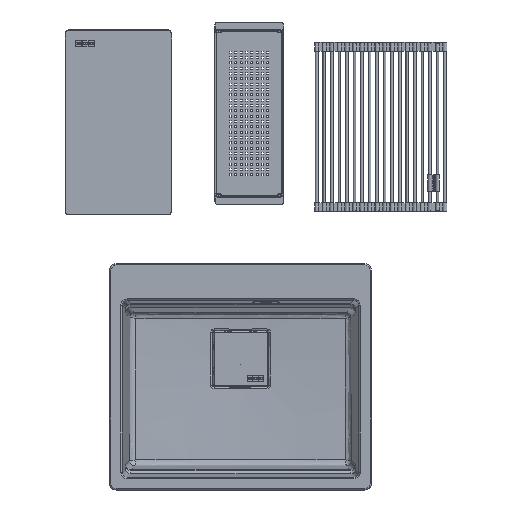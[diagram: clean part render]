
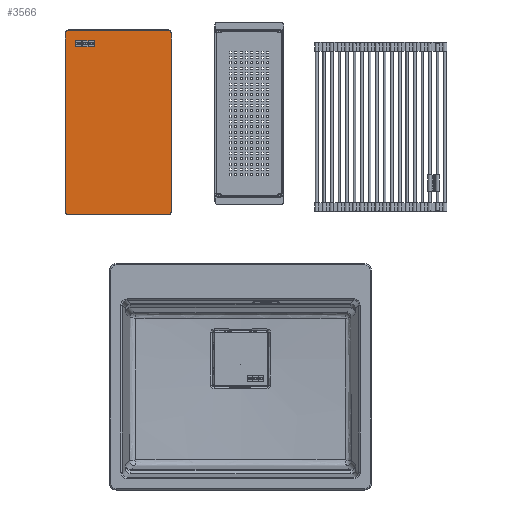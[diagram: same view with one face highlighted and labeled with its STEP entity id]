
A CAD part, top view. The second image highlights one B-rep face of the part: STEP entity #3566.
In plain terms, the highlighted planar face has unit normal (0, 0, 1).
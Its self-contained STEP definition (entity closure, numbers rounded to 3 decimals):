
#593=FACE_BOUND('',#15357,.T.);
#594=FACE_BOUND('',#15358,.T.);
#595=FACE_BOUND('',#15359,.T.);
#3566=ADVANCED_FACE('',(#9407,#593,#594,#595),#99971,.T.);
#9407=FACE_OUTER_BOUND('',#15356,.T.);
#15356=EDGE_LOOP('',(#32192,#32193,#32194,#32195,#32196,#32197,#32198,#32199));
#15357=EDGE_LOOP('',(#32200,#32201,#32202,#32203));
#15358=EDGE_LOOP('',(#32204,#32205,#32206,#32207));
#15359=EDGE_LOOP('',(#32208,#32209,#32210,#32211));
#32192=ORIENTED_EDGE('',*,*,#57907,.T.);
#32193=ORIENTED_EDGE('',*,*,#57863,.T.);
#32194=ORIENTED_EDGE('',*,*,#57922,.T.);
#32195=ORIENTED_EDGE('',*,*,#57864,.T.);
#32196=ORIENTED_EDGE('',*,*,#57918,.T.);
#32197=ORIENTED_EDGE('',*,*,#57865,.T.);
#32198=ORIENTED_EDGE('',*,*,#57912,.T.);
#32199=ORIENTED_EDGE('',*,*,#57866,.T.);
#32200=ORIENTED_EDGE('',*,*,#57552,.T.);
#32201=ORIENTED_EDGE('',*,*,#57548,.T.);
#32202=ORIENTED_EDGE('',*,*,#57558,.T.);
#32203=ORIENTED_EDGE('',*,*,#57555,.T.);
#32204=ORIENTED_EDGE('',*,*,#57684,.T.);
#32205=ORIENTED_EDGE('',*,*,#57680,.T.);
#32206=ORIENTED_EDGE('',*,*,#57690,.T.);
#32207=ORIENTED_EDGE('',*,*,#57687,.T.);
#32208=ORIENTED_EDGE('',*,*,#57837,.T.);
#32209=ORIENTED_EDGE('',*,*,#57833,.T.);
#32210=ORIENTED_EDGE('',*,*,#57843,.T.);
#32211=ORIENTED_EDGE('',*,*,#57840,.T.);
#57548=EDGE_CURVE('',#92042,#92043,#81082,.T.);
#57552=EDGE_CURVE('',#92046,#92042,#81086,.T.);
#57555=EDGE_CURVE('',#92048,#92046,#81089,.T.);
#57558=EDGE_CURVE('',#92043,#92048,#81092,.T.);
#57680=EDGE_CURVE('',#92130,#92131,#81214,.T.);
#57684=EDGE_CURVE('',#92134,#92130,#81218,.T.);
#57687=EDGE_CURVE('',#92136,#92134,#81221,.T.);
#57690=EDGE_CURVE('',#92131,#92136,#81224,.T.);
#57833=EDGE_CURVE('',#92232,#92233,#81367,.T.);
#57837=EDGE_CURVE('',#92236,#92232,#81371,.T.);
#57840=EDGE_CURVE('',#92238,#92236,#81374,.T.);
#57843=EDGE_CURVE('',#92233,#92238,#81377,.T.);
#57863=EDGE_CURVE('',#92253,#92254,#81391,.T.);
#57864=EDGE_CURVE('',#92255,#92256,#81392,.T.);
#57865=EDGE_CURVE('',#92257,#92258,#81393,.T.);
#57866=EDGE_CURVE('',#92259,#92252,#81394,.T.);
#57907=EDGE_CURVE('',#92252,#92253,#69764,.T.);
#57912=EDGE_CURVE('',#92258,#92259,#69768,.T.);
#57918=EDGE_CURVE('',#92256,#92257,#69774,.T.);
#57922=EDGE_CURVE('',#92254,#92255,#69777,.T.);
#69764=TRIMMED_CURVE($,#74373,(#194686),(#194687),.T.,.CARTESIAN.);
#69768=TRIMMED_CURVE($,#74377,(#194700),(#194701),.T.,.CARTESIAN.);
#69774=TRIMMED_CURVE($,#74383,(#194718),(#194719),.T.,.CARTESIAN.);
#69777=TRIMMED_CURVE($,#74386,(#194729),(#194730),.T.,.CARTESIAN.);
#74373=CIRCLE('',#110142,6.);
#74377=CIRCLE('',#110146,6.);
#74383=CIRCLE('',#110152,6.);
#74386=CIRCLE('',#110155,6.);
#81082=B_SPLINE_CURVE_WITH_KNOTS('',1,(#193938,#193939),.UNSPECIFIED.,.F.,
 .F.,(2,2),(-13.567,0.),.UNSPECIFIED.);
#81086=B_SPLINE_CURVE_WITH_KNOTS('',1,(#193946,#193947),.UNSPECIFIED.,.F.,
 .F.,(2,2),(-13.65,0.),.UNSPECIFIED.);
#81089=B_SPLINE_CURVE_WITH_KNOTS('',1,(#193952,#193953),.UNSPECIFIED.,.F.,
 .F.,(2,2),(-13.567,0.),.UNSPECIFIED.);
#81092=B_SPLINE_CURVE_WITH_KNOTS('',1,(#193958,#193959),.UNSPECIFIED.,.F.,
 .F.,(2,2),(-13.65,0.),.UNSPECIFIED.);
#81214=B_SPLINE_CURVE_WITH_KNOTS('',1,(#194202,#194203),.UNSPECIFIED.,.F.,
 .F.,(2,2),(-13.567,0.),.UNSPECIFIED.);
#81218=B_SPLINE_CURVE_WITH_KNOTS('',1,(#194210,#194211),.UNSPECIFIED.,.F.,
 .F.,(2,2),(-13.5,0.),.UNSPECIFIED.);
#81221=B_SPLINE_CURVE_WITH_KNOTS('',1,(#194216,#194217),.UNSPECIFIED.,.F.,
 .F.,(2,2),(-13.567,0.),.UNSPECIFIED.);
#81224=B_SPLINE_CURVE_WITH_KNOTS('',1,(#194222,#194223),.UNSPECIFIED.,.F.,
 .F.,(2,2),(-13.5,0.),.UNSPECIFIED.);
#81367=B_SPLINE_CURVE_WITH_KNOTS('',1,(#194508,#194509),.UNSPECIFIED.,.F.,
 .F.,(2,2),(-13.567,0.),.UNSPECIFIED.);
#81371=B_SPLINE_CURVE_WITH_KNOTS('',1,(#194516,#194517),.UNSPECIFIED.,.F.,
 .F.,(2,2),(-13.65,0.),.UNSPECIFIED.);
#81374=B_SPLINE_CURVE_WITH_KNOTS('',1,(#194522,#194523),.UNSPECIFIED.,.F.,
 .F.,(2,2),(-13.567,0.),.UNSPECIFIED.);
#81377=B_SPLINE_CURVE_WITH_KNOTS('',1,(#194528,#194529),.UNSPECIFIED.,.F.,
 .F.,(2,2),(-13.65,0.),.UNSPECIFIED.);
#81391=B_SPLINE_CURVE_WITH_KNOTS('',1,(#194574,#194575),.UNSPECIFIED.,.F.,
 .F.,(2,2),(0.,414.),.UNSPECIFIED.);
#81392=B_SPLINE_CURVE_WITH_KNOTS('',1,(#194576,#194577),.UNSPECIFIED.,.F.,
 .F.,(2,2),(0.,226.),.UNSPECIFIED.);
#81393=B_SPLINE_CURVE_WITH_KNOTS('',1,(#194578,#194579),.UNSPECIFIED.,.F.,
 .F.,(2,2),(0.,414.),.UNSPECIFIED.);
#81394=B_SPLINE_CURVE_WITH_KNOTS('',1,(#194580,#194581),.UNSPECIFIED.,.F.,
 .F.,(2,2),(0.,226.),.UNSPECIFIED.);
#92042=VERTEX_POINT('',#193402);
#92043=VERTEX_POINT('',#193403);
#92046=VERTEX_POINT('',#193406);
#92048=VERTEX_POINT('',#193408);
#92130=VERTEX_POINT('',#193490);
#92131=VERTEX_POINT('',#193491);
#92134=VERTEX_POINT('',#193494);
#92136=VERTEX_POINT('',#193496);
#92232=VERTEX_POINT('',#193592);
#92233=VERTEX_POINT('',#193593);
#92236=VERTEX_POINT('',#193596);
#92238=VERTEX_POINT('',#193598);
#92252=VERTEX_POINT('',#193612);
#92253=VERTEX_POINT('',#193613);
#92254=VERTEX_POINT('',#193614);
#92255=VERTEX_POINT('',#193615);
#92256=VERTEX_POINT('',#193616);
#92257=VERTEX_POINT('',#193617);
#92258=VERTEX_POINT('',#193618);
#92259=VERTEX_POINT('',#193619);
#99971=PLANE('',#110067);
#110067=AXIS2_PLACEMENT_3D('',#193170,#121361,$);
#110142=AXIS2_PLACEMENT_3D($,#194685,#121477,#121478);
#110146=AXIS2_PLACEMENT_3D($,#194699,#121485,#121486);
#110152=AXIS2_PLACEMENT_3D($,#194717,#121497,#121498);
#110155=AXIS2_PLACEMENT_3D($,#194728,#121503,#121504);
#121361=DIRECTION('',(0.,0.,1.));
#121477=DIRECTION('',(0.,0.,1.));
#121478=DIRECTION('',(0.,-1.,0.));
#121485=DIRECTION('',(0.,0.,1.));
#121486=DIRECTION('',(-1.,0.,0.));
#121497=DIRECTION('',(0.,0.,1.));
#121498=DIRECTION('',(0.,1.,0.));
#121503=DIRECTION('',(0.,0.,1.));
#121504=DIRECTION('',(1.,0.,0.));
#193170=CARTESIAN_POINT('',(-394.398,244.648,-1395.194));
#193402=CARTESIAN_POINT('',(-371.398,623.131,-1395.194));
#193403=CARTESIAN_POINT('',(-371.398,636.698,-1395.194));
#193406=CARTESIAN_POINT('',(-357.748,623.131,-1395.194));
#193408=CARTESIAN_POINT('',(-357.748,636.698,-1395.194));
#193490=CARTESIAN_POINT('',(-357.148,623.131,-1395.194));
#193491=CARTESIAN_POINT('',(-357.148,636.698,-1395.194));
#193494=CARTESIAN_POINT('',(-343.648,623.131,-1395.194));
#193496=CARTESIAN_POINT('',(-343.648,636.698,-1395.194));
#193592=CARTESIAN_POINT('',(-343.048,623.131,-1395.194));
#193593=CARTESIAN_POINT('',(-343.048,636.698,-1395.194));
#193596=CARTESIAN_POINT('',(-329.398,623.131,-1395.194));
#193598=CARTESIAN_POINT('',(-329.398,636.698,-1395.194));
#193612=CARTESIAN_POINT('',(-162.398,244.648,-1395.194));
#193613=CARTESIAN_POINT('',(-156.398,250.648,-1395.194));
#193614=CARTESIAN_POINT('',(-156.398,653.698,-1395.194));
#193615=CARTESIAN_POINT('',(-162.398,659.698,-1395.194));
#193616=CARTESIAN_POINT('',(-388.398,659.698,-1395.194));
#193617=CARTESIAN_POINT('',(-394.398,653.698,-1395.194));
#193618=CARTESIAN_POINT('',(-394.398,250.648,-1395.194));
#193619=CARTESIAN_POINT('',(-388.398,244.648,-1395.194));
#193938=CARTESIAN_POINT('',(-371.398,623.131,-1395.194));
#193939=CARTESIAN_POINT('',(-371.398,636.698,-1395.194));
#193946=CARTESIAN_POINT('',(-357.748,623.131,-1395.194));
#193947=CARTESIAN_POINT('',(-371.398,623.131,-1395.194));
#193952=CARTESIAN_POINT('',(-357.748,636.698,-1395.194));
#193953=CARTESIAN_POINT('',(-357.748,623.131,-1395.194));
#193958=CARTESIAN_POINT('',(-371.398,636.698,-1395.194));
#193959=CARTESIAN_POINT('',(-357.748,636.698,-1395.194));
#194202=CARTESIAN_POINT('',(-357.148,623.131,-1395.194));
#194203=CARTESIAN_POINT('',(-357.148,636.698,-1395.194));
#194210=CARTESIAN_POINT('',(-343.648,623.131,-1395.194));
#194211=CARTESIAN_POINT('',(-357.148,623.131,-1395.194));
#194216=CARTESIAN_POINT('',(-343.648,636.698,-1395.194));
#194217=CARTESIAN_POINT('',(-343.648,623.131,-1395.194));
#194222=CARTESIAN_POINT('',(-357.148,636.698,-1395.194));
#194223=CARTESIAN_POINT('',(-343.648,636.698,-1395.194));
#194508=CARTESIAN_POINT('',(-343.048,623.131,-1395.194));
#194509=CARTESIAN_POINT('',(-343.048,636.698,-1395.194));
#194516=CARTESIAN_POINT('',(-329.398,623.131,-1395.194));
#194517=CARTESIAN_POINT('',(-343.048,623.131,-1395.194));
#194522=CARTESIAN_POINT('',(-329.398,636.698,-1395.194));
#194523=CARTESIAN_POINT('',(-329.398,623.131,-1395.194));
#194528=CARTESIAN_POINT('',(-343.048,636.698,-1395.194));
#194529=CARTESIAN_POINT('',(-329.398,636.698,-1395.194));
#194574=CARTESIAN_POINT('',(-156.398,250.648,-1395.194));
#194575=CARTESIAN_POINT('',(-156.398,653.698,-1395.194));
#194576=CARTESIAN_POINT('',(-162.398,659.698,-1395.194));
#194577=CARTESIAN_POINT('',(-388.398,659.698,-1395.194));
#194578=CARTESIAN_POINT('',(-394.398,653.698,-1395.194));
#194579=CARTESIAN_POINT('',(-394.398,250.648,-1395.194));
#194580=CARTESIAN_POINT('',(-388.398,244.648,-1395.194));
#194581=CARTESIAN_POINT('',(-162.398,244.648,-1395.194));
#194685=CARTESIAN_POINT('',(-162.398,250.648,-1395.194));
#194686=CARTESIAN_POINT('',(-162.398,244.648,-1395.194));
#194687=CARTESIAN_POINT('',(-156.398,250.648,-1395.194));
#194699=CARTESIAN_POINT('',(-388.398,250.648,-1395.194));
#194700=CARTESIAN_POINT('',(-394.398,250.648,-1395.194));
#194701=CARTESIAN_POINT('',(-388.398,244.648,-1395.194));
#194717=CARTESIAN_POINT('',(-388.398,653.698,-1395.194));
#194718=CARTESIAN_POINT('',(-388.398,659.698,-1395.194));
#194719=CARTESIAN_POINT('',(-394.398,653.698,-1395.194));
#194728=CARTESIAN_POINT('',(-162.398,653.698,-1395.194));
#194729=CARTESIAN_POINT('',(-156.398,653.698,-1395.194));
#194730=CARTESIAN_POINT('',(-162.398,659.698,-1395.194));
